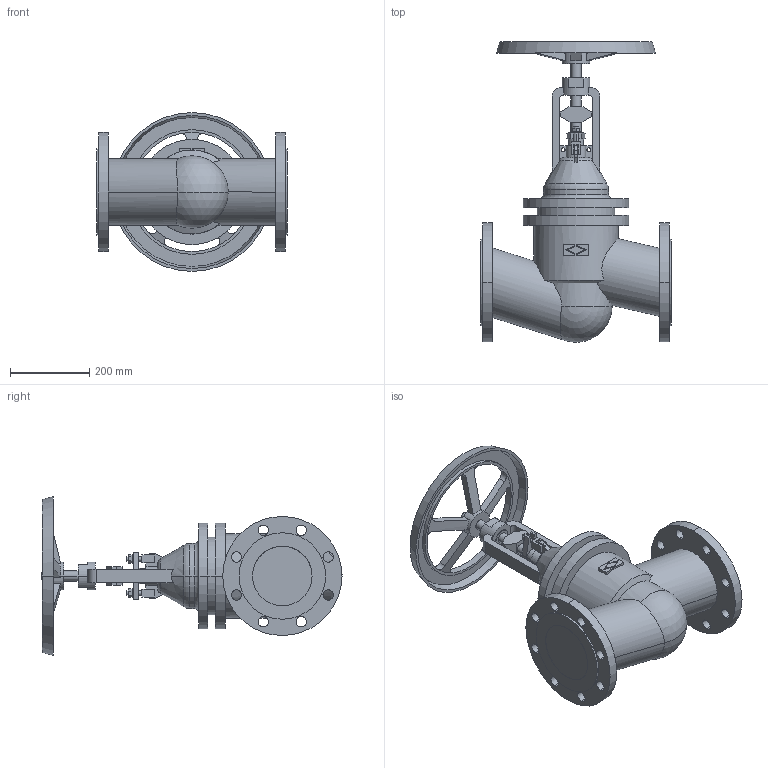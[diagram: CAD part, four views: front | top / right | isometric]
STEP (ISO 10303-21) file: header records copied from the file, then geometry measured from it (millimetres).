
FILE_DESCRIPTION(('OneSpaceDesigner STEP Export'),'2;1');
FILE_NAME('c000003756.stp','2009-06-16T11:00:08',(''),(''),'OneSpace Designer STEP processor for AP214 (Solid Model)','OneSpace Modeling 15.50B 03-Nov-2007 (C) CoCreate Software GmbH','');
FILE_SCHEMA(('AUTOMOTIVE_DESIGN { 1 0 10303 214 1 1 1 1 }'));
Length unit declared in the file: millimetre
Products named in the file (1): 1
Bounding box: 480 x 756.67 x 400 mm (x, y, z)
Volume: 24007272.3 mm3; surface area: 1148646 mm2
Topology: 1 solids, 1 shells, 306 faces, 806 edges, 525 vertices
Faces by surface type: plane 149, cylinder 125, cone 22, torus 8, sphere 2
Entity records: 11866 total; most frequent: CARTESIAN_POINT 2303, ORIENTED_EDGE 1608, DIRECTION 1295, EDGE_CURVE 804, VERTEX_POINT 525, AXIS2_PLACEMENT_3D 438, VECTOR 419, LINE 419
